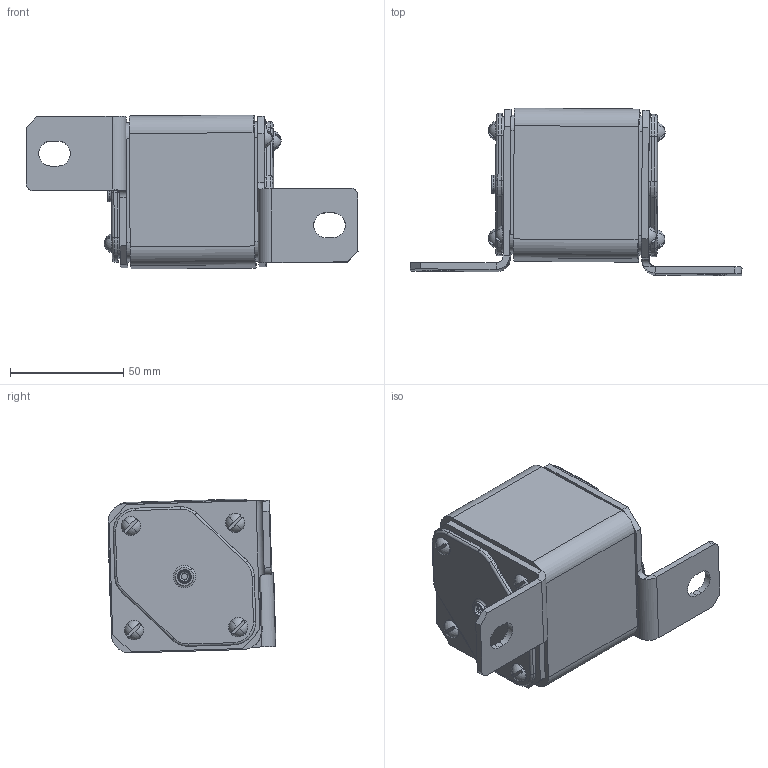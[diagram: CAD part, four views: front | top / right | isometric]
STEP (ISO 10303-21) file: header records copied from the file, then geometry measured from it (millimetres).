
FILE_DESCRIPTION (( 'STEP AP214' ), '1' );
FILE_NAME ('砎槼隰譇膻蠈錪 珫57-37370.STEP', '2022-09-22T11:15:19', ( '' ), ( '' ), 'SwSTEP 2.0', 'SolidWorks 2018', '' );
FILE_SCHEMA (( 'AUTOMOTIVE_DESIGN' ));
Length unit declared in the file: millimetre
Products named in the file (10): 扻豵鵨 弝偫66 55; Òàáëè÷êà 32õ48; 妈眚 闷仁.758161.003_儐垔.758161.003-05; 署赅 闷仁.745152.003_-00; 署赅 闷仁.745152.003_-02; Ïðîêëàäêà ÃÆÈÊ.741122.002_-06; -07; Ïðîêëàäêà ÃÆÈÊ.741332.001_-00; 砎槼隰譇膻蠈錪 珫57-37370; ч蜱齁罻; ﾂ鏆鮏 ﾃﾆﾈﾊ.745212.005_-00
Assembly tree (19 placements, depth 2):
  砎槼隰譇膻蠈錪 珫57-37370
    扻豵鵨 弝偫66 55
    Ïðîêëàäêà ÃÆÈÊ.741122.002_-06; -07  x2
    ﾂ鏆鮏 ﾃﾆﾈﾊ.745212.005_-00  x2
    Ïðîêëàäêà ÃÆÈÊ.741332.001_-00  x2
    署赅 闷仁.745152.003_-00
    署赅 闷仁.745152.003_-02
    ч蜱齁罻
    妈眚 闷仁.758161.003_儐垔.758161.003-05  x8
    Òàáëè÷êà 32õ48
Bounding box: 146.43 x 73.92 x 67.87 mm (x, y, z)
Volume: 183922.7 mm3; surface area: 90744.7 mm2
Topology: 19 solids, 19 shells, 444 faces, 1048 edges, 660 vertices
Faces by surface type: cylinder 188, plane 166, torus 40, cone 34, sphere 16
Entity records: 8378 total; most frequent: DIRECTION 1528, CARTESIAN_POINT 1359, ORIENTED_EDGE 1266, EDGE_CURVE 633, AXIS2_PLACEMENT_3D 604, VERTEX_POINT 391, EDGE_LOOP 326, LINE 320
